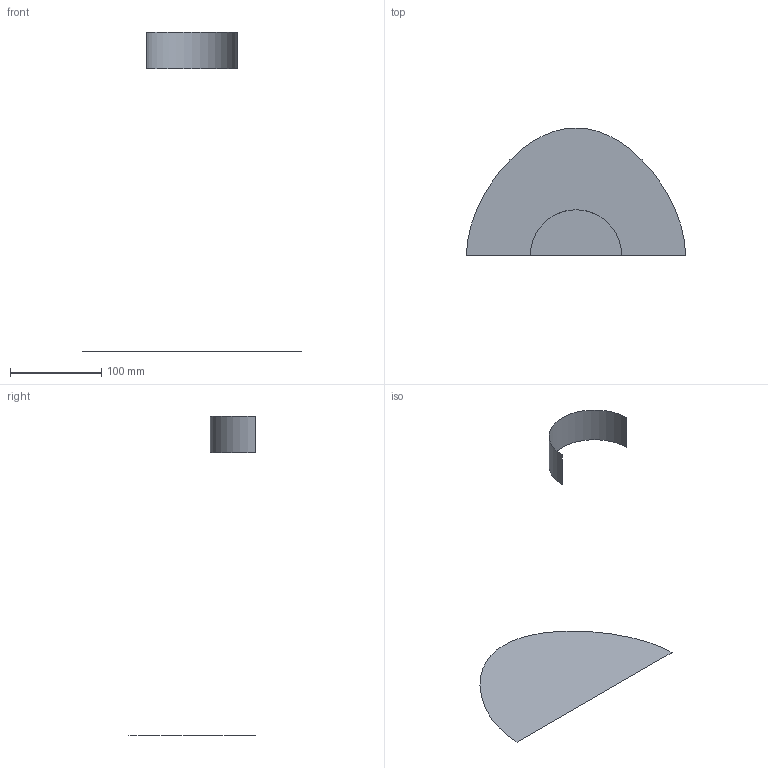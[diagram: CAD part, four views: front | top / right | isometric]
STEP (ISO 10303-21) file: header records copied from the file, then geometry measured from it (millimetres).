
FILE_DESCRIPTION(('CATIA V5 STEP Exchange'),'2;1');
FILE_NAME('C:\_Andres\UNIVERSIDAD\IQS\ASIGNATURAS\DAO\Controles\1617\c1\1original\Salazar_Martin_Ej00-base_v30.stp','2017-02-06T16:27:54+00:00',('none'),('none'),'CATIA Version 5-6 Release 2014 SP1 HF18','CATIA V5 STEP AP203','none');
FILE_SCHEMA(('CONFIG_CONTROL_DESIGN'));
Length unit declared in the file: millimetre
Products named in the file (1): Salazar_Martin_Ej00-base_v30
Bounding box: 240 x 140 x 350 mm (x, y, z)
Surface area: 31571.4 mm2 (no closed solid volume)
Topology: 0 solids, 2 shells, 2 faces, 16 edges, 26 vertices
Faces by surface type: cylinder 1, plane 1
Entity records: 230 total; most frequent: CARTESIAN_POINT 78, DIRECTION 16, COMPOSITE_CURVE_SEGMENT 9, TRIMMED_CURVE 9, AXIS2_PLACEMENT_3D 8, COMPOSITE_CURVE 7, ORIENTED_EDGE 7, EDGE_CURVE 7
